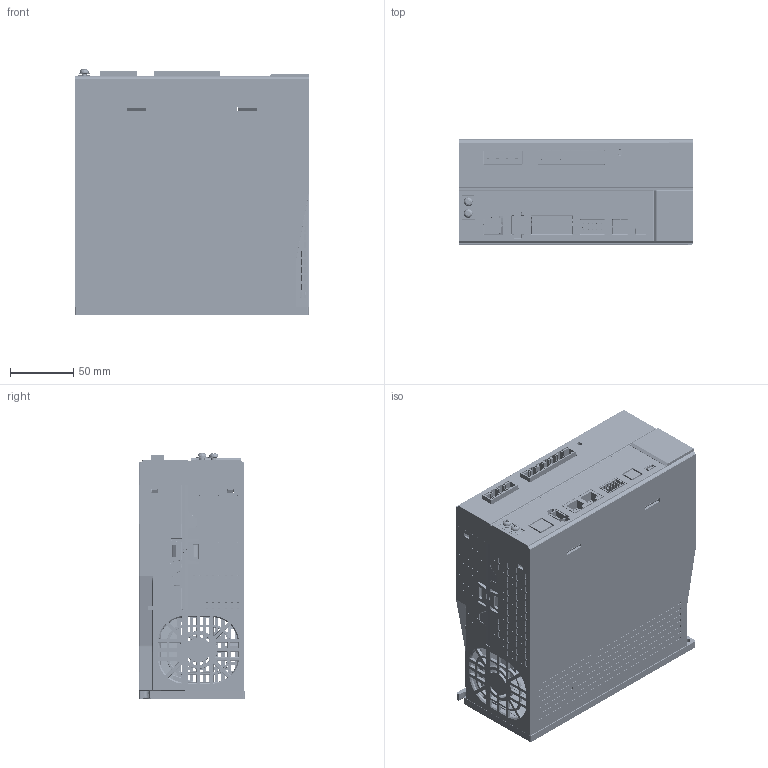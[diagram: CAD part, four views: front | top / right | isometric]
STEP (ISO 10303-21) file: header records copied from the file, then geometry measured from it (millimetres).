
FILE_DESCRIPTION(('CATIA V5 STEP Exchange'),'2;1');
FILE_NAME('F:\项目\[04]★官网--外观3D图纸\【3】DS5系列\【7】DS5C1\DS5C1+21P5+22P3+42P3+43P0-PTA\DS5C1-43P0-PTA-官网图.stp','2022-10-20T04:36:32+00:00',('none'),('none'),'CATIA Version 5 Release 20 GA (IN-10)','CATIA V5 STEP AP203','none');
FILE_SCHEMA(('CONFIG_CONTROL_DESIGN'));
Products named in the file (1): DS5C1-43P0-PTA-_
Bounding box: 185.31 x 83.2 x 193.58 mm (x, y, z)
Surface area: 350318 mm2
Topology: 2 solids, 115 shells, 11014 faces, 30161 edges, 19256 vertices
Faces by surface type: plane 5717, cylinder 3505, bspline 511, torus 471, cone 379, sphere 312, extrusion 119
Entity records: 404765 total; most frequent: CARTESIAN_POINT 148912, ORIENTED_EDGE 58473, DIRECTION 41572, EDGE_CURVE 29779, VERTEX_POINT 19304, VECTOR 18004, LINE 17885, AXIS2_PLACEMENT_3D 13185
